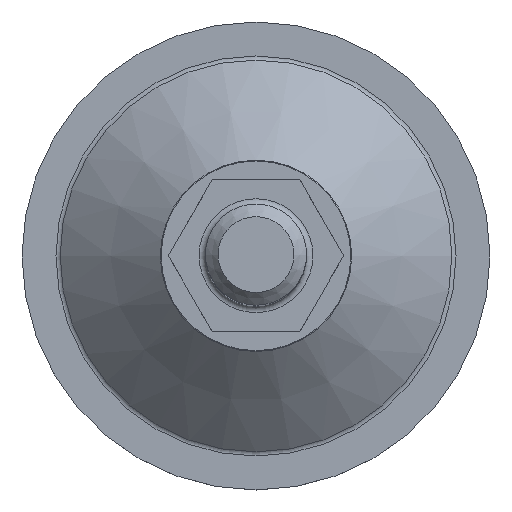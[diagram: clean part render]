
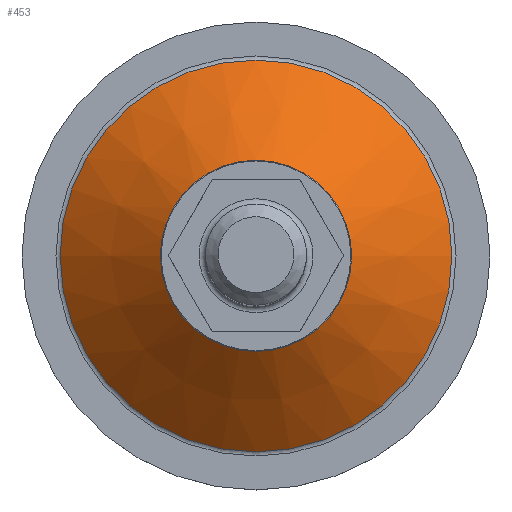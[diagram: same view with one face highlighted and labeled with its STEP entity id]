
A CAD part, top view. The second image highlights one B-rep face of the part: STEP entity #453.
In plain terms, the highlighted conical face has half-angle 49.002 degrees and reference radius 23.047 mm.
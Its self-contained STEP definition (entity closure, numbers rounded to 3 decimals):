
#51=CONICAL_SURFACE('',#521,23.047,49.002);
#101=FACE_BOUND('',#197,.T.);
#138=FACE_OUTER_BOUND('',#196,.T.);
#196=EDGE_LOOP('',(#402));
#197=EDGE_LOOP('',(#403));
#225=CIRCLE('',#507,15.124);
#233=CIRCLE('',#520,30.97);
#265=VERTEX_POINT('',#776);
#273=VERTEX_POINT('',#797);
#311=EDGE_CURVE('',#265,#265,#225,.T.);
#319=EDGE_CURVE('',#273,#273,#233,.T.);
#402=ORIENTED_EDGE('',*,*,#311,.T.);
#403=ORIENTED_EDGE('',*,*,#319,.F.);
#453=ADVANCED_FACE('',(#138,#101),#51,.T.);
#507=AXIS2_PLACEMENT_3D('',#777,#629,#630);
#520=AXIS2_PLACEMENT_3D('',#798,#655,#656);
#521=AXIS2_PLACEMENT_3D('',#799,#657,#658);
#629=DIRECTION('center_axis',(0.,0.,-1.));
#630=DIRECTION('ref_axis',(1.,0.,0.));
#655=DIRECTION('center_axis',(0.,0.,-1.));
#656=DIRECTION('ref_axis',(1.,0.,0.));
#657=DIRECTION('center_axis',(0.,0.,-1.));
#658=DIRECTION('ref_axis',(1.,0.,0.));
#776=CARTESIAN_POINT('',(-15.125,-0.001,-48.507));
#777=CARTESIAN_POINT('Origin',(-0.001,-0.001,
-48.507));
#797=CARTESIAN_POINT('',(-30.971,-0.001,-62.281));
#798=CARTESIAN_POINT('Origin',(-0.001,-0.001,
-62.281));
#799=CARTESIAN_POINT('Origin',(-0.001,-0.001,
-55.394));
